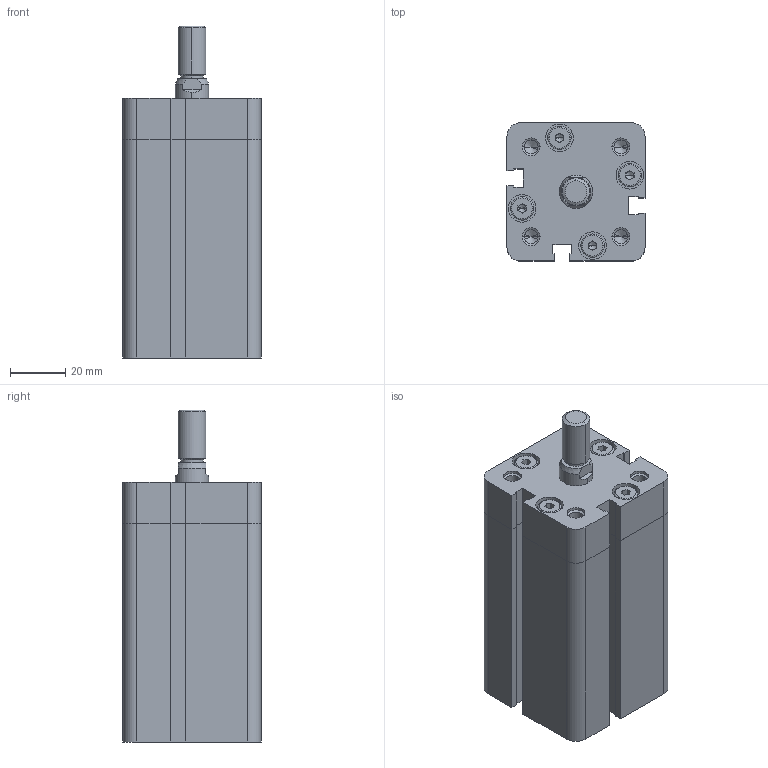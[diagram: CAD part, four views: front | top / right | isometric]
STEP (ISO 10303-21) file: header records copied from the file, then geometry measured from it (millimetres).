
FILE_DESCRIPTION (( 'STEP AP214' ), '1' );
FILE_NAME ('WINC-032-0050-ML (MDMY).STEP', '2017-12-21T12:11:04', ( 'Hidtek' ), ( '' ), 'SwSTEP 2.0', 'SolidWorks 2016', '' );
FILE_SCHEMA (( 'AUTOMOTIVE_DESIGN' ));
Length unit declared in the file: millimetre
Products named in the file (3): Group2^WINC-032-0050-ML (MDMY); Group1^WINC-032-0050-ML (MDMY); WINC-032-0050-ML (MDMY)
Assembly tree (2 placements, depth 2):
  WINC-032-0050-ML (MDMY)
    Group1^WINC-032-0050-ML (MDMY)
    Group2^WINC-032-0050-ML (MDMY)
Bounding box: 50 x 50 x 120.15 mm (x, y, z)
Volume: 189876.5 mm3; surface area: 49447.9 mm2
Topology: 7 solids, 7 shells, 399 faces, 972 edges, 595 vertices
Faces by surface type: plane 217, cylinder 90, cone 64, torus 16, bspline 12
Entity records: 13101 total; most frequent: CARTESIAN_POINT 2405, DIRECTION 1954, ORIENTED_EDGE 1892, EDGE_CURVE 946, VECTOR 658, LINE 658, AXIS2_PLACEMENT_3D 648, VERTEX_POINT 595
